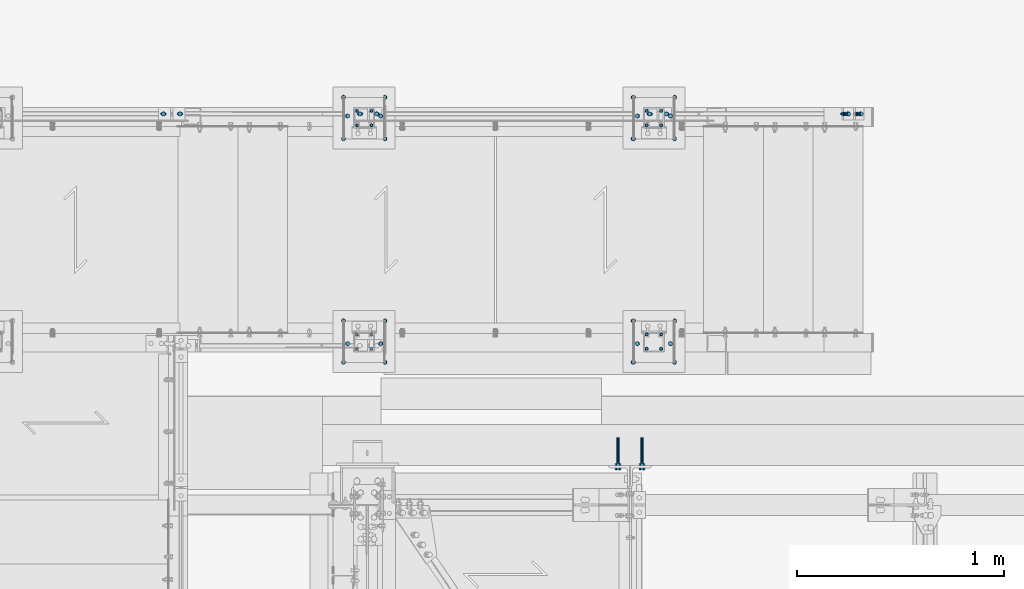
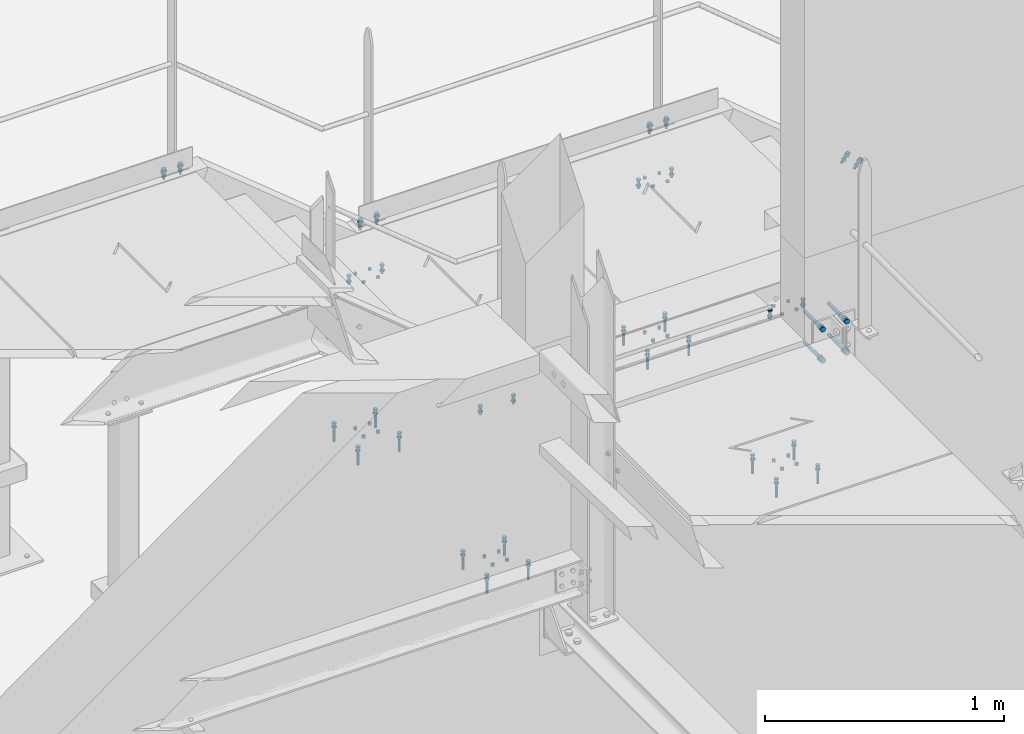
# One storey, part 183 of 362: 21 mechanical fasteners.
"""IFC2X3 building model written with IfcOpenShell, lengths in millimetres."""

from ifc_helpers import new_model, si_unit, frame, frame_2d, origin_with_axes, origin_2d_with_axis, place, context, subcontext, project, spatial, polyline, circle_curve, parameter, trimmed, segment, composite_curve, circle, outline, extrude, source, transform, mapped, material, type_object, element, save


model = new_model("IFC2X3")

# Units and contexts
model_context = context("Model", 3, precision=1e-05, world=origin_with_axes())
body_context = subcontext(model_context, "Body", "Model", "MODEL_VIEW")
ifc_project = project(units=[si_unit("LENGTHUNIT", "METRE", prefix="MILLI"), si_unit("AREAUNIT", "SQUARE_METRE"), si_unit("VOLUMEUNIT", "CUBIC_METRE"), si_unit("MASSUNIT", "GRAM", prefix="KILO"), si_unit("TIMEUNIT", "SECOND"), si_unit("PLANEANGLEUNIT", "RADIAN"), si_unit("SOLIDANGLEUNIT", "STERADIAN"), si_unit("THERMODYNAMICTEMPERATUREUNIT", "DEGREE_CELSIUS"), si_unit("LUMINOUSINTENSITYUNIT", "LUMEN")], contexts=[model_context])

# Site, building, storey
site_placement = place(None, origin_with_axes())
site = spatial("IfcSite", under=ifc_project, at=site_placement, Name="Undefined", CompositionType="ELEMENT")
building_placement = place(site_placement, origin_with_axes())
building = spatial("IfcBuilding", under=site, at=building_placement, Name="Undefined", CompositionType="ELEMENT")
storey_placement = place(building_placement, origin_with_axes())
storey = spatial("IfcBuildingStorey", under=building, at=storey_placement, Name="Undefined", CompositionType="ELEMENT", Elevation=0.0)

# Mechanical fasteners
ifc_material_1 = material(Name="6.8")
mechanical_fastener_type = type_object("IfcMechanicalFastenerType", Name="Bolt assembly")
shared_shape_1 = source(origin_with_axes(), body_context, "Body", "SweptSolid", [
    extrude(circle(Radius=7.0, at=origin_2d_with_axis()), frame((0.0, -12.0, 0.0), z_axis=(0.0, 1.0, 0.0), x_axis=(1.0, 0.0, 0.0)), (0.0, 0.0, 1.0), 12.1),
])
for number, where, z_axis, x_axis, name in (
    (1, (23455.0, 16025.0001225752, 7050.0), (1.0, 0.0, 0.0), (0.0, -1.0, 0.0), "Bolt assembly"),
    (2, (24855.0, 16025.0001225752, 7050.0), (1.0, 0.0, 0.0), (0.0, -1.0, 0.0), "Bolt assembly"),
):
    element("IfcMechanicalFastener", number, at=place(storey_placement, frame(where, z_axis=z_axis, x_axis=x_axis)), inside=storey, type_object=mechanical_fastener_type, material=ifc_material_1, Name=name, NominalDiameter=12.0, NominalLength=12.0, context=body_context, shape_type="MappedRepresentation", body=[
        mapped(shared_shape_1, transform((0.0, 0.0, 35.0))),
        mapped(shared_shape_1, transform((70.0, 0.0, 35.0))),
        mapped(shared_shape_1, transform((0.0, 0.0, -35.0))),
        mapped(shared_shape_1, transform((70.0, 0.0, -35.0))),
    ])
for number, where, z_axis, x_axis, name in (
    (3, (23455.0, 17034.9998774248, 7050.0), (-1.0, 0.0, 0.0), (0.0, 1.0, 0.0), "Bolt assembly"),
    (4, (24855.0, 17034.9998774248, 7050.0), (-1.0, 0.0, 0.0), (0.0, 1.0, 0.0), "Bolt assembly"),
):
    element("IfcMechanicalFastener", number, at=place(storey_placement, frame(where, z_axis=z_axis, x_axis=x_axis)), inside=storey, type_object=mechanical_fastener_type, material=ifc_material_1, Name=name, NominalDiameter=12.0, NominalLength=12.0, context=body_context, shape_type="MappedRepresentation", body=[
        mapped(shared_shape_1, transform((0.0, 0.0, -35.0))),
        mapped(shared_shape_1, transform((70.0, 0.0, -35.0))),
        mapped(shared_shape_1, transform((0.0, 0.0, 35.0))),
        mapped(shared_shape_1, transform((70.0, 0.0, 35.0))),
    ])
ifc_material_2 = material(Name="HILTI-HSA-R")
shared_shape_2 = source(origin_with_axes(), body_context, "Body", "SweptSolid", [
    extrude(circle(Radius=7.0, at=origin_2d_with_axis()), frame((0.0, -12.0, 0.0), z_axis=(0.0, 1.0, 0.0), x_axis=(1.0, 0.0, 0.0)), (0.0, 0.0, 1.0), 12.1),
    extrude(outline(polyline([(10.39230484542, 0.0), (5.19615242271, 9.00000000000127), (-5.19615242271, 9.00000000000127), (-10.39230484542, 0.0), (-5.19615242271, -9.00000000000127), (5.19615242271, -9.00000000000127), (10.39230484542, 0.0)])), frame((0.0, -19.92, 0.0), z_axis=(0.0, 1.0, 0.0), x_axis=(1.0, 0.0, 0.0)), (0.0, 0.0, 1.0), 7.92),
    extrude(circle(Radius=6.0, at=origin_2d_with_axis()), frame((0.0, -12.0, 0.0), z_axis=(0.0, 1.0, 0.0), x_axis=(1.0, 0.0, 0.0)), (0.0, 0.0, 1.0), 89.2),
    extrude(outline(polyline([(11.5008173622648, 0.0), (5.7504086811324, 9.96000000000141), (-5.7504086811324, 9.96000000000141), (-11.5008173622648, 0.0), (-5.7504086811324, -9.96000000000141), (5.7504086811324, -9.96000000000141), (11.5008173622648, 0.0)])), frame((0.0, 0.0, 0.0), z_axis=(0.0, 1.0, 0.0), x_axis=(1.0, 0.0, 0.0)), (0.0, 0.0, 1.0), 7.92),
])
for number, where, z_axis, x_axis, name in (
    (5, (23455.0, 16090.0001225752, 7050.0), (1.0, 0.0, 0.0), (0.0, -1.0, 0.0), "Bolt assembly"),
    (6, (24855.0, 16090.0001225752, 7050.0), (1.0, 0.0, 0.0), (0.0, -1.0, 0.0), "Bolt assembly"),
):
    element("IfcMechanicalFastener", number, at=place(storey_placement, frame(where, z_axis=z_axis, x_axis=x_axis)), inside=storey, type_object=mechanical_fastener_type, material=ifc_material_2, Name=name, NominalDiameter=12.0, NominalLength=89.1999969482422, context=body_context, shape_type="MappedRepresentation", body=[
        mapped(shared_shape_2, transform((0.0, 0.0, 100.0))),
        mapped(shared_shape_2, transform((200.0, 0.0, 100.0))),
        mapped(shared_shape_2, transform((0.0, 0.0, -100.0))),
        mapped(shared_shape_2, transform((200.0, 0.0, -100.0))),
    ])
for number, where, z_axis, x_axis, name in (
    (7, (23455.0, 16969.9998774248, 7050.0), (-1.0, 0.0, 0.0), (0.0, 1.0, 0.0), "Bolt assembly"),
    (8, (24855.0, 16969.9998774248, 7050.0), (-1.0, 0.0, 0.0), (0.0, 1.0, 0.0), "Bolt assembly"),
):
    element("IfcMechanicalFastener", number, at=place(storey_placement, frame(where, z_axis=z_axis, x_axis=x_axis)), inside=storey, type_object=mechanical_fastener_type, material=ifc_material_2, Name=name, NominalDiameter=12.0, NominalLength=89.1999969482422, context=body_context, shape_type="MappedRepresentation", body=[
        mapped(shared_shape_2, transform((0.0, 0.0, -100.0))),
        mapped(shared_shape_2, transform((200.0, 0.0, -100.0))),
        mapped(shared_shape_2, transform((0.0, 0.0, 100.0))),
        mapped(shared_shape_2, transform((200.0, 0.0, 100.0))),
    ])
ifc_material_3 = material(Name="8.8-SB-GALVA")
shared_shape_3 = source(origin_with_axes(), body_context, "Body", "SweptSolid", [
    extrude(circle(Radius=7.0, at=origin_2d_with_axis()), frame((0.0, -0.100011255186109, 0.0), z_axis=(0.0, 1.0, 0.0), x_axis=(1.0, 0.0, 0.0)), (0.0, 0.0, 1.0), 12.9),
    extrude(outline(composite_curve([segment(polyline([(-7.0, 7.0), (7.0, 7.0)]), True, "CONTINUOUS"), segment(trimmed(circle_curve(frame_2d((7.0, 0.0), x_axis=(0.0, 1.0)), 7.0), [parameter(0.0)], [parameter(3.14159265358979)], False, "PARAMETER"), True, "CONTINUOUS"), segment(polyline([(7.0, -7.0), (-7.0, -7.0)]), True, "CONTINUOUS"), segment(trimmed(circle_curve(frame_2d((-7.0, 0.0), x_axis=(0.0, -1.0)), 7.0), [parameter(0.0)], [parameter(3.14159265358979)], False, "PARAMETER"), True, "DISCONTINUOUS")], self_intersect=False)), frame((0.0, -9.9, 0.0), z_axis=(0.0, 1.0, 0.0), x_axis=(1.0, 0.0, 0.0)), (0.0, 0.0, 1.0), 10.0),
    extrude(outline(polyline([(10.39230484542, 0.0), (5.19615242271, 9.00000000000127), (-5.19615242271, 9.00000000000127), (-10.39230484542, 0.0), (-5.19615242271, -9.00000000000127), (5.19615242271, -9.00000000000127), (10.39230484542, 0.0)])), frame((0.0, -21.88, 0.0), z_axis=(0.0, 1.0, 0.0), x_axis=(1.0, 0.0, 0.0)), (0.0, 0.0, 1.0), 7.92),
    extrude(circle(Radius=6.0, at=origin_2d_with_axis()), frame((0.0, -13.96, 0.0), z_axis=(0.0, 1.0, 0.0), x_axis=(1.0, 0.0, 0.0)), (0.0, 0.0, 1.0), 50.0),
    extrude(circle(Radius=10.8, at=origin_2d_with_axis()), frame((0.0, -13.96, 0.0), z_axis=(0.0, 1.0, 0.0), x_axis=(1.0, 0.0, 0.0)), (0.0, 0.0, 1.0), 3.96),
    extrude(outline(polyline([(11.5008173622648, 0.0), (5.7504086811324, 9.96000000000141), (-5.7504086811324, 9.96000000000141), (-11.5008173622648, 0.0), (-5.7504086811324, -9.96000000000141), (5.7504086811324, -9.96000000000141), (11.5008173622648, 0.0)])), frame((0.0, 12.800464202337, 0.0), z_axis=(0.0, 1.0, 0.0), x_axis=(1.0, 0.0, 0.0)), (0.0, 0.0, 1.0), 7.92),
])
mechanical_fastener_1_placement = place(storey_placement, frame((25784.0391422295, 17089.9938659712, 7627.46731409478), z_axis=(0.0, 1.0, 0.0), x_axis=(0.768221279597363, 0.0, -0.640184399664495)))
element("IfcMechanicalFastener", 9, at=mechanical_fastener_1_placement, inside=storey, type_object=mechanical_fastener_type, material=ifc_material_3, Name="Bolt assembly", NominalDiameter=12.0, NominalLength=50.0, context=body_context, shape_type="MappedRepresentation", body=[
    mapped(shared_shape_3, transform((0.0, 0.0, 0.0))),
    mapped(shared_shape_3, transform((80.0, 0.0, 0.0))),
])
shared_shape_4 = source(origin_with_axes(), body_context, "Body", "SweptSolid", [
    extrude(circle(Radius=7.0, at=origin_2d_with_axis()), frame((0.0, -0.10007666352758, 0.0), z_axis=(0.0, 1.0, 0.0), x_axis=(1.0, 0.0, 0.0)), (0.0, 0.0, 1.0), 12.9),
    extrude(outline(composite_curve([segment(polyline([(-7.0, 7.0), (7.0, 7.0)]), True, "CONTINUOUS"), segment(trimmed(circle_curve(frame_2d((7.0, 0.0), x_axis=(0.0, 1.0)), 7.0), [parameter(0.0)], [parameter(3.14159265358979)], False, "PARAMETER"), True, "CONTINUOUS"), segment(polyline([(7.0, -7.0), (-7.0, -7.0)]), True, "CONTINUOUS"), segment(trimmed(circle_curve(frame_2d((-7.0, 0.0), x_axis=(0.0, -1.0)), 7.0), [parameter(0.0)], [parameter(3.14159265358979)], False, "PARAMETER"), True, "DISCONTINUOUS")], self_intersect=False)), frame((0.0, -9.9, 0.0), z_axis=(0.0, 1.0, 0.0), x_axis=(1.0, 0.0, 0.0)), (0.0, 0.0, 1.0), 10.0),
    extrude(outline(polyline([(10.39230484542, 0.0), (5.19615242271, 9.00000000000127), (-5.19615242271, 9.00000000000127), (-10.39230484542, 0.0), (-5.19615242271, -9.00000000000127), (5.19615242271, -9.00000000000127), (10.39230484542, 0.0)])), frame((0.0, -21.88, 0.0), z_axis=(0.0, 1.0, 0.0), x_axis=(1.0, 0.0, 0.0)), (0.0, 0.0, 1.0), 7.92),
    extrude(circle(Radius=6.0, at=origin_2d_with_axis()), frame((0.0, -13.96, 0.0), z_axis=(0.0, 1.0, 0.0), x_axis=(1.0, 0.0, 0.0)), (0.0, 0.0, 1.0), 50.0),
    extrude(circle(Radius=10.8, at=origin_2d_with_axis()), frame((0.0, -13.96, 0.0), z_axis=(0.0, 1.0, 0.0), x_axis=(1.0, 0.0, 0.0)), (0.0, 0.0, 1.0), 3.96),
    extrude(outline(polyline([(11.5008173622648, 0.0), (5.7504086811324, 9.96000000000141), (-5.7504086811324, 9.96000000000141), (-11.5008173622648, 0.0), (-5.7504086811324, -9.96000000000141), (5.7504086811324, -9.96000000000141), (11.5008173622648, 0.0)])), frame((0.0, 12.800376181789, 0.0), z_axis=(0.0, 1.0, 0.0), x_axis=(1.0, 0.0, 0.0)), (0.0, 0.0, 1.0), 7.92),
])
mechanical_fastener_2_placement = place(storey_placement, frame((24835.0123796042, 17089.9938659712, 8109.9999407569), z_axis=(0.0, 1.0, 0.0), x_axis=(1.0, 0.0, 0.0)))
element("IfcMechanicalFastener", 10, at=mechanical_fastener_2_placement, inside=storey, type_object=mechanical_fastener_type, material=ifc_material_3, Name="Bolt assembly", NominalDiameter=12.0, NominalLength=50.0, context=body_context, shape_type="MappedRepresentation", body=[
    mapped(shared_shape_4, transform((0.0, 0.0, 0.0))),
    mapped(shared_shape_4, transform((80.0, 0.0, 0.0))),
])
shared_shape_5 = source(origin_with_axes(), body_context, "Body", "SweptSolid", [
    extrude(circle(Radius=7.0, at=origin_2d_with_axis()), frame((0.0, -0.100259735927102, 0.0), z_axis=(0.0, 1.0, 0.0), x_axis=(1.0, 0.0, 0.0)), (0.0, 0.0, 1.0), 12.9),
    extrude(outline(composite_curve([segment(polyline([(-7.0, 7.0), (7.0, 7.0)]), True, "CONTINUOUS"), segment(trimmed(circle_curve(frame_2d((7.0, 0.0), x_axis=(0.0, 1.0)), 7.0), [parameter(0.0)], [parameter(3.14159265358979)], False, "PARAMETER"), True, "CONTINUOUS"), segment(polyline([(7.0, -7.0), (-7.0, -7.0)]), True, "CONTINUOUS"), segment(trimmed(circle_curve(frame_2d((-7.0, 0.0), x_axis=(0.0, -1.0)), 7.0), [parameter(0.0)], [parameter(3.14159265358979)], False, "PARAMETER"), True, "DISCONTINUOUS")], self_intersect=False)), frame((0.0, -9.9, 0.0), z_axis=(0.0, 1.0, 0.0), x_axis=(1.0, 0.0, 0.0)), (0.0, 0.0, 1.0), 10.0),
    extrude(outline(polyline([(10.39230484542, 0.0), (5.19615242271, 9.00000000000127), (-5.19615242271, 9.00000000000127), (-10.39230484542, 0.0), (-5.19615242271, -9.00000000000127), (5.19615242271, -9.00000000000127), (10.39230484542, 0.0)])), frame((0.0, -21.88, 0.0), z_axis=(0.0, 1.0, 0.0), x_axis=(1.0, 0.0, 0.0)), (0.0, 0.0, 1.0), 7.92),
    extrude(circle(Radius=6.0, at=origin_2d_with_axis()), frame((0.0, -13.96, 0.0), z_axis=(0.0, 1.0, 0.0), x_axis=(1.0, 0.0, 0.0)), (0.0, 0.0, 1.0), 50.0),
    extrude(circle(Radius=10.8, at=origin_2d_with_axis()), frame((0.0, -13.96, 0.0), z_axis=(0.0, 1.0, 0.0), x_axis=(1.0, 0.0, 0.0)), (0.0, 0.0, 1.0), 3.96),
    extrude(outline(polyline([(11.5008173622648, 0.0), (5.7504086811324, 9.96000000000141), (-5.7504086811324, 9.96000000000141), (-11.5008173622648, 0.0), (-5.7504086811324, -9.96000000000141), (5.7504086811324, -9.96000000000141), (11.5008173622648, 0.0)])), frame((0.0, 12.8000405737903, 0.0), z_axis=(0.0, 1.0, 0.0), x_axis=(1.0, 0.0, 0.0)), (0.0, 0.0, 1.0), 7.92),
])
mechanical_fastener_3_placement = place(storey_placement, frame((23435.0123796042, 17089.9938659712, 8109.9999407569), z_axis=(0.0, 1.0, 0.0), x_axis=(1.0, 0.0, 0.0)))
element("IfcMechanicalFastener", 11, at=mechanical_fastener_3_placement, inside=storey, type_object=mechanical_fastener_type, material=ifc_material_3, Name="Bolt assembly", NominalDiameter=12.0, NominalLength=50.0, context=body_context, shape_type="MappedRepresentation", body=[
    mapped(shared_shape_5, transform((0.0, 0.0, 0.0))),
    mapped(shared_shape_5, transform((80.0, 0.0, 0.0))),
])
shared_shape_6 = source(origin_with_axes(), body_context, "Body", "SweptSolid", [
    extrude(circle(Radius=7.0, at=origin_2d_with_axis()), frame((0.0, -0.100155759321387, 0.0), z_axis=(0.0, 1.0, 0.0), x_axis=(1.0, 0.0, 0.0)), (0.0, 0.0, 1.0), 12.9),
    extrude(outline(composite_curve([segment(polyline([(-7.0, 7.0), (7.0, 7.0)]), True, "CONTINUOUS"), segment(trimmed(circle_curve(frame_2d((7.0, 0.0), x_axis=(0.0, 1.0)), 7.0), [parameter(0.0)], [parameter(3.14159265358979)], False, "PARAMETER"), True, "CONTINUOUS"), segment(polyline([(7.0, -7.0), (-7.0, -7.0)]), True, "CONTINUOUS"), segment(trimmed(circle_curve(frame_2d((-7.0, 0.0), x_axis=(0.0, -1.0)), 7.0), [parameter(0.0)], [parameter(3.14159265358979)], False, "PARAMETER"), True, "DISCONTINUOUS")], self_intersect=False)), frame((0.0, -9.9, 0.0), z_axis=(0.0, 1.0, 0.0), x_axis=(1.0, 0.0, 0.0)), (0.0, 0.0, 1.0), 10.0),
    extrude(outline(polyline([(10.39230484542, 0.0), (5.19615242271, 9.00000000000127), (-5.19615242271, 9.00000000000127), (-10.39230484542, 0.0), (-5.19615242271, -9.00000000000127), (5.19615242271, -9.00000000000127), (10.39230484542, 0.0)])), frame((0.0, -21.88, 0.0), z_axis=(0.0, 1.0, 0.0), x_axis=(1.0, 0.0, 0.0)), (0.0, 0.0, 1.0), 7.92),
    extrude(circle(Radius=6.0, at=origin_2d_with_axis()), frame((0.0, -13.96, 0.0), z_axis=(0.0, 1.0, 0.0), x_axis=(1.0, 0.0, 0.0)), (0.0, 0.0, 1.0), 50.0),
    extrude(circle(Radius=10.8, at=origin_2d_with_axis()), frame((0.0, -13.96, 0.0), z_axis=(0.0, 1.0, 0.0), x_axis=(1.0, 0.0, 0.0)), (0.0, 0.0, 1.0), 3.96),
    extrude(outline(polyline([(11.5008173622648, 0.0), (5.7504086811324, 9.96000000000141), (-5.7504086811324, 9.96000000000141), (-11.5008173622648, 0.0), (-5.7504086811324, -9.96000000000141), (5.7504086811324, -9.96000000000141), (11.5008173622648, 0.0)])), frame((0.0, 12.8000405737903, 0.0), z_axis=(0.0, 1.0, 0.0), x_axis=(1.0, 0.0, 0.0)), (0.0, 0.0, 1.0), 7.92),
])
mechanical_fastener_4_placement = place(storey_placement, frame((22485.0061849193, 17089.9938659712, 8700.00000001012), z_axis=(0.0, 1.0, 0.0), x_axis=(1.0, 0.0, 0.0)))
element("IfcMechanicalFastener", 12, at=mechanical_fastener_4_placement, inside=storey, type_object=mechanical_fastener_type, material=ifc_material_3, Name="Bolt assembly", NominalDiameter=12.0, NominalLength=50.0, context=body_context, shape_type="MappedRepresentation", body=[
    mapped(shared_shape_6, transform((0.0, 0.0, 0.0))),
    mapped(shared_shape_6, transform((80.0, 0.0, 0.0))),
])
shared_shape_7 = source(origin_with_axes(), body_context, "Body", "SweptSolid", [
    extrude(circle(Radius=7.0, at=origin_2d_with_axis()), frame((0.0, 0.0, 0.0), z_axis=(0.0, 1.0, 0.0), x_axis=(1.0, 0.0, 0.0)), (0.0, 0.0, 1.0), 8.1),
])
mechanical_fastener_5_placement = place(storey_placement, frame((24855.0, 16025.0001225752, 7850.00001160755), z_axis=(1.0, 0.0, 0.0), x_axis=(0.0, -1.0, 0.0)))
element("IfcMechanicalFastener", 13, at=mechanical_fastener_5_placement, inside=storey, type_object=mechanical_fastener_type, material=ifc_material_1, Name="Bolt assembly", NominalDiameter=12.0, NominalLength=8.0, context=body_context, shape_type="MappedRepresentation", body=[
    mapped(shared_shape_7, transform((0.0, 0.0, 35.0))),
    mapped(shared_shape_7, transform((70.0, 0.0, 35.0))),
    mapped(shared_shape_7, transform((0.0, 0.0, -35.0))),
    mapped(shared_shape_7, transform((70.0, 0.0, -35.0))),
])
for number, where, z_axis, x_axis, name in (
    (14, (23455.0, 17034.9998774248, 7850.00001160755), (-1.0, 0.0, 0.0), (0.0, 1.0, 0.0), "Bolt assembly"),
    (15, (24855.0, 17034.9998774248, 7850.00001160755), (-1.0, 0.0, 0.0), (0.0, 1.0, 0.0), "Bolt assembly"),
):
    element("IfcMechanicalFastener", number, at=place(storey_placement, frame(where, z_axis=z_axis, x_axis=x_axis)), inside=storey, type_object=mechanical_fastener_type, material=ifc_material_1, Name=name, NominalDiameter=12.0, NominalLength=8.0, context=body_context, shape_type="MappedRepresentation", body=[
        mapped(shared_shape_7, transform((0.0, 0.0, -35.0))),
        mapped(shared_shape_7, transform((70.0, 0.0, -35.0))),
        mapped(shared_shape_7, transform((0.0, 0.0, 35.0))),
        mapped(shared_shape_7, transform((70.0, 0.0, 35.0))),
    ])
shared_shape_8 = source(origin_with_axes(), body_context, "Body", "SweptSolid", [
    extrude(circle(Radius=7.0, at=origin_2d_with_axis()), frame((0.0, -13.5001910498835, 0.0), z_axis=(0.0, 1.0, 0.0), x_axis=(1.0, 0.0, 0.0)), (0.0, 0.0, 1.0), 13.6),
    extrude(circle(Radius=7.0, at=origin_2d_with_axis()), frame((0.0, -0.10007666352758, 0.0), z_axis=(0.0, 1.0, 0.0), x_axis=(1.0, 0.0, 0.0)), (0.0, 0.0, 1.0), 8.1),
    extrude(outline(polyline([(10.39230484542, 0.0), (5.19615242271, 9.00000000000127), (-5.19615242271, 9.00000000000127), (-10.39230484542, 0.0), (-5.19615242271, -9.00000000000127), (5.19615242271, -9.00000000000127), (10.39230484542, 0.0)])), frame((0.0, -21.5201910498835, 0.0), z_axis=(0.0, 1.0, 0.0), x_axis=(1.0, 0.0, 0.0)), (0.0, 0.0, 1.0), 7.92),
    extrude(circle(Radius=6.0, at=origin_2d_with_axis()), frame((0.0, -13.6001910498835, 0.0), z_axis=(0.0, 1.0, 0.0), x_axis=(1.0, 0.0, 0.0)), (0.0, 0.0, 1.0), 40.0),
    extrude(outline(polyline([(11.5008173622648, 0.0), (5.7504086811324, 9.96000000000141), (-5.7504086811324, 9.96000000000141), (-11.5008173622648, 0.0), (-5.7504086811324, -9.96000000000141), (5.7504086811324, -9.96000000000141), (11.5008173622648, 0.0)])), frame((0.0, 7.99992914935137, 0.0), z_axis=(0.0, 1.0, 0.0), x_axis=(1.0, 0.0, 0.0)), (0.0, 0.0, 1.0), 7.92),
])
mechanical_fastener_6_placement = place(storey_placement, frame((23455.0, 15980.0001225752, 7849.9999407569), z_axis=(-1.0, 0.0, 0.0), x_axis=(0.0, 1.0, 0.0)))
element("IfcMechanicalFastener", 16, at=mechanical_fastener_6_placement, inside=storey, type_object=mechanical_fastener_type, material=ifc_material_3, Name="Bolt assembly", NominalDiameter=12.0, NominalLength=40.0, context=body_context, shape_type="MappedRepresentation", body=[
    mapped(shared_shape_8, transform((0.0, 0.0, 80.0))),
    mapped(shared_shape_8, transform((0.0, 0.0, -80.0))),
])
shared_shape_9 = source(origin_with_axes(), body_context, "Body", "SweptSolid", [
    extrude(circle(Radius=7.0, at=origin_2d_with_axis()), frame((0.0, -13.5000574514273, 0.0), z_axis=(0.0, 1.0, 0.0), x_axis=(1.0, 0.0, 0.0)), (0.0, 0.0, 1.0), 13.6),
    extrude(circle(Radius=7.0, at=origin_2d_with_axis()), frame((0.0, -0.10007666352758, 0.0), z_axis=(0.0, 1.0, 0.0), x_axis=(1.0, 0.0, 0.0)), (0.0, 0.0, 1.0), 8.1),
    extrude(outline(polyline([(10.39230484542, 0.0), (5.19615242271, 9.00000000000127), (-5.19615242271, 9.00000000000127), (-10.39230484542, 0.0), (-5.19615242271, -9.00000000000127), (5.19615242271, -9.00000000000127), (10.39230484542, 0.0)])), frame((0.0, -21.5200574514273, 0.0), z_axis=(0.0, 1.0, 0.0), x_axis=(1.0, 0.0, 0.0)), (0.0, 0.0, 1.0), 7.92),
    extrude(circle(Radius=6.0, at=origin_2d_with_axis()), frame((0.0, -13.6000574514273, 0.0), z_axis=(0.0, 1.0, 0.0), x_axis=(1.0, 0.0, 0.0)), (0.0, 0.0, 1.0), 40.0),
    extrude(outline(polyline([(11.5008173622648, 0.0), (5.7504086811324, 9.96000000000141), (-5.7504086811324, 9.96000000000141), (-11.5008173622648, 0.0), (-5.7504086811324, -9.96000000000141), (5.7504086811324, -9.96000000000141), (11.5008173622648, 0.0)])), frame((0.0, 7.99992914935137, 0.0), z_axis=(0.0, 1.0, 0.0), x_axis=(1.0, 0.0, 0.0)), (0.0, 0.0, 1.0), 7.92),
])
mechanical_fastener_7_placement = place(storey_placement, frame((24855.0, 15980.0001225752, 7849.9999407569), z_axis=(-1.0, 0.0, 0.0), x_axis=(0.0, 1.0, 0.0)))
element("IfcMechanicalFastener", 17, at=mechanical_fastener_7_placement, inside=storey, type_object=mechanical_fastener_type, material=ifc_material_3, Name="Bolt assembly", NominalDiameter=12.0, NominalLength=40.0, context=body_context, shape_type="MappedRepresentation", body=[
    mapped(shared_shape_9, transform((0.0, 0.0, 80.0))),
    mapped(shared_shape_9, transform((0.0, 0.0, -80.0))),
])
for number, where, z_axis, x_axis, name in (
    (18, (23455.0, 17079.9998774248, 7849.9999407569), (1.0, 0.0, 0.0), (0.0, -1.0, 0.0), "Bolt assembly"),
    (19, (24855.0, 17079.9998774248, 7849.9999407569), (1.0, 0.0, 0.0), (0.0, -1.0, 0.0), "Bolt assembly"),
):
    element("IfcMechanicalFastener", number, at=place(storey_placement, frame(where, z_axis=z_axis, x_axis=x_axis)), inside=storey, type_object=mechanical_fastener_type, material=ifc_material_3, Name=name, NominalDiameter=12.0, NominalLength=40.0, context=body_context, shape_type="MappedRepresentation", body=[
        mapped(shared_shape_9, transform((0.0, 0.0, -80.0))),
        mapped(shared_shape_9, transform((0.0, 0.0, 80.0))),
    ])
ifc_material_4 = material(Name="HILTI-HST-R")
shared_shape_10 = source(origin_with_axes(), body_context, "Body", "SweptSolid", [
    extrude(circle(Radius=9.0, at=origin_2d_with_axis()), frame((0.0, -9.99987141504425, 0.0), z_axis=(0.0, 1.0, 0.0), x_axis=(1.0, 0.0, 0.0)), (0.0, 0.0, 1.0), 10.1),
    extrude(outline(polyline([(13.85640646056, 0.0), (6.92820323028, 12.0000000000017), (-6.92820323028, 12.0000000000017), (-13.85640646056, 0.0), (-6.92820323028, -12.0000000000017), (6.92820323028, -12.0000000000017), (13.85640646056, 0.0)])), frame((0.0, -20.559881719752, 0.0), z_axis=(0.0, 1.0, 0.0), x_axis=(1.0, 0.0, 0.0)), (0.0, 0.0, 1.0), 10.56),
    extrude(circle(Radius=8.0, at=origin_2d_with_axis()), frame((0.0, -9.99987141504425, 0.0), z_axis=(0.0, 1.0, 0.0), x_axis=(1.0, 0.0, 0.0)), (0.0, 0.0, 1.0), 146.2),
    extrude(outline(polyline([(15.3344231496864, 0.0), (7.6672115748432, 13.2800000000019), (-7.6672115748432, 13.2800000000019), (-15.3344231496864, 0.0), (-7.6672115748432, -13.2800000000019), (7.6672115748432, -13.2800000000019), (15.3344231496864, 0.0)])), frame((0.0, 0.000125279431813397, 0.0), z_axis=(0.0, 1.0, 0.0), x_axis=(1.0, 0.0, 0.0)), (0.0, 0.0, 1.0), 10.56),
])
for number, where, z_axis, x_axis, name in (
    (20, (24681.4916006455, 15389.9998771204, 8090.00437165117), (0.0, 0.0, 1.0), (1.0, 0.0, 0.0), "Bolt assembly"),
    (21, (24797.4916006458, 15389.9998771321, 8090.00437165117), (0.0, 0.0, -1.0), (-1.0, 0.0, 0.0), "Bolt assembly"),
):
    element("IfcMechanicalFastener", number, at=place(storey_placement, frame(where, z_axis=z_axis, x_axis=x_axis)), inside=storey, type_object=mechanical_fastener_type, material=ifc_material_4, Name=name, NominalDiameter=16.0, NominalLength=146.199996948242, context=body_context, shape_type="MappedRepresentation", body=[
        mapped(shared_shape_10, transform((0.0, 0.0, -80.0))),
        mapped(shared_shape_10, transform((0.0, 0.0, 80.0))),
    ])

save(model, "model.ifc")
